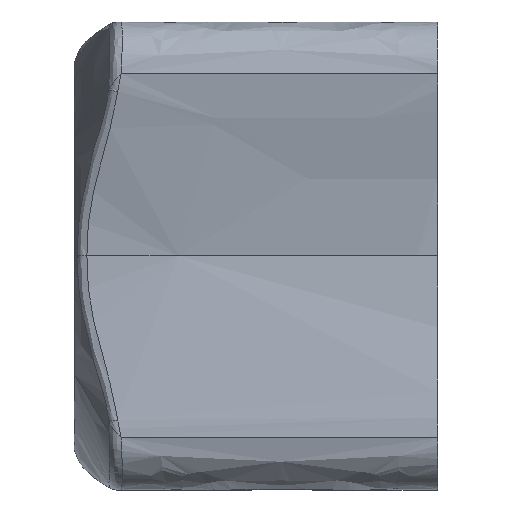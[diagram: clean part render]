
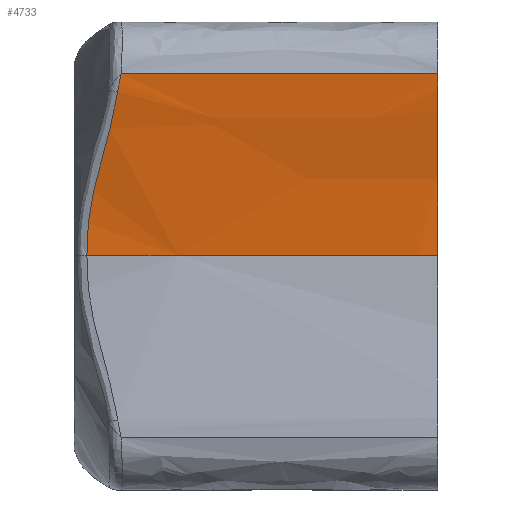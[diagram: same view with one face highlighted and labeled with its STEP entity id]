
A CAD part, top view. The second image highlights one B-rep face of the part: STEP entity #4733.
In plain terms, the highlighted free-form (B-spline) face has degree [5, 1] with [15, 2] control points.
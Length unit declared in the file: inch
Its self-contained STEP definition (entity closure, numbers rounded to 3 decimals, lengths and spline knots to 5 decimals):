
#53=(
BOUNDED_CURVE()
B_SPLINE_CURVE(5,(#12015,#12016,#12017,#12018,#12019,#12020,#12021),
 .UNSPECIFIED.,.F.,.F.)
B_SPLINE_CURVE_WITH_KNOTS((6,1,6),(-0.13649,-0.1,0.),
 .UNSPECIFIED.)
CURVE()
GEOMETRIC_REPRESENTATION_ITEM()
RATIONAL_B_SPLINE_CURVE((1.,1.,1.,1.,1.,1.,1.))
REPRESENTATION_ITEM('')
);
#54=(
BOUNDED_CURVE()
B_SPLINE_CURVE(5,(#12023,#12024,#12025,#12026,#12027,#12028,#12029,#12030,
#12031),.UNSPECIFIED.,.F.,.F.)
B_SPLINE_CURVE_WITH_KNOTS((6,1,1,1,6),(-0.5,-0.4,-0.3,-0.2,-0.13649),
 .UNSPECIFIED.)
CURVE()
GEOMETRIC_REPRESENTATION_ITEM()
RATIONAL_B_SPLINE_CURVE((1.,1.,1.,1.,1.,1.,1.,1.,1.))
REPRESENTATION_ITEM('')
);
#313=B_SPLINE_CURVE_WITH_KNOTS('',3,(#14321,#14322,#14323,#14324,#14325,
#14326),.UNSPECIFIED.,.F.,.F.,(4,2,4),(-0.00001,0.30987,
0.81447),.UNSPECIFIED.);
#314=B_SPLINE_CURVE_WITH_KNOTS('',3,(#14328,#14329,#14330,#14331,#14332,
#14333,#14334,#14335,#14336,#14337,#14338,#14339,#14340,#14341,#14342,#14343,
#14344,#14345,#14346),.UNSPECIFIED.,.F.,.F.,(4,1,1,2,1,1,2,2,1,1,1,2,4),
(0.,0.78283,1.56565,3.13131,3.7171,
4.3029,5.47449,6.09928,6.30468,6.51008,
6.92089,7.7425,8.35573),.UNSPECIFIED.);
#315=B_SPLINE_CURVE_WITH_KNOTS('',3,(#14348,#14349,#14350,#14351),
 .UNSPECIFIED.,.F.,.F.,(4,4),(-17.15622,-12.7),.UNSPECIFIED.);
#316=B_SPLINE_CURVE_WITH_KNOTS('',3,(#14353,#14354,#14355,#14356,#14357,
#14358),.UNSPECIFIED.,.F.,.F.,(4,2,4),(-12.7,-8.7313,-1.016),
 .UNSPECIFIED.);
#317=B_SPLINE_CURVE_WITH_KNOTS('',3,(#14359,#14360,#14361,#14362),
 .UNSPECIFIED.,.F.,.F.,(4,4),(-1.016,0.),.UNSPECIFIED.);
#777=LINE('',#13493,#1007);
#1007=VECTOR('',#5845,0.3937);
#1287=FACE_OUTER_BOUND('',#1585,.T.);
#1585=EDGE_LOOP('',(#4100,#4101,#4102,#4103,#4104,#4105,#4106,#4107));
#2182=VERTEX_POINT('',#11988);
#2183=VERTEX_POINT('',#12014);
#2184=VERTEX_POINT('',#12022);
#2218=VERTEX_POINT('',#13459);
#2236=VERTEX_POINT('',#14320);
#2237=VERTEX_POINT('',#14327);
#2238=VERTEX_POINT('',#14347);
#2239=VERTEX_POINT('',#14352);
#2809=EDGE_CURVE('',#2183,#2182,#53,.T.);
#2810=EDGE_CURVE('',#2184,#2183,#54,.T.);
#2873=EDGE_CURVE('',#2182,#2218,#777,.T.);
#2895=EDGE_CURVE('',#2218,#2236,#313,.T.);
#2896=EDGE_CURVE('',#2236,#2237,#314,.T.);
#2897=EDGE_CURVE('',#2237,#2238,#315,.T.);
#2898=EDGE_CURVE('',#2238,#2239,#316,.T.);
#2899=EDGE_CURVE('',#2239,#2184,#317,.T.);
#4100=ORIENTED_EDGE('',*,*,#2873,.T.);
#4101=ORIENTED_EDGE('',*,*,#2895,.T.);
#4102=ORIENTED_EDGE('',*,*,#2896,.T.);
#4103=ORIENTED_EDGE('',*,*,#2897,.T.);
#4104=ORIENTED_EDGE('',*,*,#2898,.T.);
#4105=ORIENTED_EDGE('',*,*,#2899,.T.);
#4106=ORIENTED_EDGE('',*,*,#2810,.T.);
#4107=ORIENTED_EDGE('',*,*,#2809,.T.);
#4555=(
BOUNDED_SURFACE()
B_SPLINE_SURFACE(5,1,((#14290,#14291),(#14292,#14293),(#14294,#14295),(#14296,
#14297),(#14298,#14299),(#14300,#14301),(#14302,#14303),(#14304,#14305),
(#14306,#14307),(#14308,#14309),(#14310,#14311),(#14312,#14313),(#14314,
#14315),(#14316,#14317),(#14318,#14319)),.UNSPECIFIED.,.F.,.F.,.F.)
B_SPLINE_SURFACE_WITH_KNOTS((6,1,1,1,1,1,1,1,1,1,6),(2,2),(-1.,-0.9,-0.8,
-0.7,-0.6,-0.5,-0.4,-0.3,-0.2,-0.1,0.),(0.,48.26),.UNSPECIFIED.)
GEOMETRIC_REPRESENTATION_ITEM()
RATIONAL_B_SPLINE_SURFACE(((1.,1.),(1.,1.),(1.,1.),(1.,1.),(1.,1.),(1.,
1.),(1.,1.),(1.,1.),(1.,1.),(1.,1.),(1.,1.),(1.,1.),(1.,1.),(1.,1.),(1.,
1.)))
REPRESENTATION_ITEM('')
SURFACE()
);
#4733=ADVANCED_FACE('',(#1287),#4555,.T.);
#5845=DIRECTION('',(-1.,0.,0.));
#11988=CARTESIAN_POINT('',(7.,3.5,4.5));
#12014=CARTESIAN_POINT('',(7.,2.8,4.41294));
#12015=CARTESIAN_POINT('Ctrl Pts',(7.,2.8,4.41294));
#12016=CARTESIAN_POINT('Ctrl Pts',(7.,2.84522,4.42162));
#12017=CARTESIAN_POINT('Ctrl Pts',(7.,3.01087,4.45252));
#12018=CARTESIAN_POINT('Ctrl Pts',(7.,3.16284,4.47698));
#12019=CARTESIAN_POINT('Ctrl Pts',(7.,3.29958,4.49316));
#12020=CARTESIAN_POINT('Ctrl Pts',(7.,3.42023,4.5));
#12021=CARTESIAN_POINT('Ctrl Pts',(7.,3.5,4.5));
#12022=CARTESIAN_POINT('',(7.,0.,4.));
#12023=CARTESIAN_POINT('Ctrl Pts',(7.,0.,4.));
#12024=CARTESIAN_POINT('Ctrl Pts',(7.,0.16228,4.));
#12025=CARTESIAN_POINT('Ctrl Pts',(7.,0.48977,4.01002));
#12026=CARTESIAN_POINT('Ctrl Pts',(7.,0.98697,4.05513));
#12027=CARTESIAN_POINT('Ctrl Pts',(7.,1.58543,4.15546));
#12028=CARTESIAN_POINT('Ctrl Pts',(7.,2.14395,4.27623));
#12029=CARTESIAN_POINT('Ctrl Pts',(7.,2.51122,4.35565));
#12030=CARTESIAN_POINT('Ctrl Pts',(7.,2.72127,4.39783));
#12031=CARTESIAN_POINT('Ctrl Pts',(7.,2.8,4.41294));
#13459=CARTESIAN_POINT('',(0.90336,3.5,4.5));
#13493=CARTESIAN_POINT('',(7.,3.5,4.5));
#14290=CARTESIAN_POINT('Ctrl Pts',(7.,-3.5,4.5));
#14291=CARTESIAN_POINT('Ctrl Pts',(-12.,-3.5,4.5));
#14292=CARTESIAN_POINT('Ctrl Pts',(7.,-3.38086,4.5));
#14293=CARTESIAN_POINT('Ctrl Pts',(-12.,-3.38086,4.5));
#14294=CARTESIAN_POINT('Ctrl Pts',(7.,-3.13917,4.48998));
#14295=CARTESIAN_POINT('Ctrl Pts',(-12.,-3.13917,4.48998));
#14296=CARTESIAN_POINT('Ctrl Pts',(7.,-2.76633,4.44487));
#14297=CARTESIAN_POINT('Ctrl Pts',(-12.,-2.76633,4.44487));
#14298=CARTESIAN_POINT('Ctrl Pts',(7.,-2.24686,4.33447));
#14299=CARTESIAN_POINT('Ctrl Pts',(-12.,-2.24686,4.33447));
#14300=CARTESIAN_POINT('Ctrl Pts',(7.,-1.552,4.16553));
#14301=CARTESIAN_POINT('Ctrl Pts',(-12.,-1.552,4.16553));
#14302=CARTESIAN_POINT('Ctrl Pts',(7.,-0.80523,4.02753));
#14303=CARTESIAN_POINT('Ctrl Pts',(-12.,-0.80523,4.02753));
#14304=CARTESIAN_POINT('Ctrl Pts',(7.,-0.00816,3.97329));
#14305=CARTESIAN_POINT('Ctrl Pts',(-12.,-0.00816,3.97329));
#14306=CARTESIAN_POINT('Ctrl Pts',(7.,0.82234,4.02753));
#14307=CARTESIAN_POINT('Ctrl Pts',(-12.,0.82234,4.02753));
#14308=CARTESIAN_POINT('Ctrl Pts',(7.,1.6455,4.16553));
#14309=CARTESIAN_POINT('Ctrl Pts',(-12.,1.6455,4.16553));
#14310=CARTESIAN_POINT('Ctrl Pts',(7.,2.40821,4.33447));
#14311=CARTESIAN_POINT('Ctrl Pts',(-12.,2.40821,4.33447));
#14312=CARTESIAN_POINT('Ctrl Pts',(7.,2.92641,4.44487));
#14313=CARTESIAN_POINT('Ctrl Pts',(-12.,2.92641,4.44487));
#14314=CARTESIAN_POINT('Ctrl Pts',(7.,3.24343,4.48998));
#14315=CARTESIAN_POINT('Ctrl Pts',(-12.,3.24343,4.48998));
#14316=CARTESIAN_POINT('Ctrl Pts',(7.,3.42023,4.5));
#14317=CARTESIAN_POINT('Ctrl Pts',(-12.,3.42023,4.5));
#14318=CARTESIAN_POINT('Ctrl Pts',(7.,3.5,4.5));
#14319=CARTESIAN_POINT('Ctrl Pts',(-12.,3.5,4.5));
#14320=CARTESIAN_POINT('',(0.84112,3.15725,4.47302));
#14321=CARTESIAN_POINT('Ctrl Pts',(0.90336,3.5,4.5));
#14322=CARTESIAN_POINT('Ctrl Pts',(0.89232,3.45523,4.49999));
#14323=CARTESIAN_POINT('Ctrl Pts',(0.88244,3.41142,4.49815));
#14324=CARTESIAN_POINT('Ctrl Pts',(0.86109,3.29639,4.49028));
#14325=CARTESIAN_POINT('Ctrl Pts',(0.84982,3.22646,4.4824));
#14326=CARTESIAN_POINT('Ctrl Pts',(0.84112,3.15725,4.47302));
#14327=CARTESIAN_POINT('',(0.24558,0.,4.));
#14328=CARTESIAN_POINT('Ctrl Pts',(0.84112,3.15725,4.47302));
#14329=CARTESIAN_POINT('Ctrl Pts',(0.82779,3.05137,4.45864));
#14330=CARTESIAN_POINT('Ctrl Pts',(0.79338,2.8455,4.42312));
#14331=CARTESIAN_POINT('Ctrl Pts',(0.6972,2.449,4.34265));
#14332=CARTESIAN_POINT('Ctrl Pts',(0.60043,2.16344,4.28034));
#14333=CARTESIAN_POINT('Ctrl Pts',(0.52583,1.89834,4.22572));
#14334=CARTESIAN_POINT('Ctrl Pts',(0.48773,1.75341,4.19642));
#14335=CARTESIAN_POINT('Ctrl Pts',(0.41897,1.46208,4.14108));
#14336=CARTESIAN_POINT('Ctrl Pts',(0.37271,1.24263,4.10465));
#14337=CARTESIAN_POINT('Ctrl Pts',(0.32942,1.01757,4.0724));
#14338=CARTESIAN_POINT('Ctrl Pts',(0.31517,0.93916,4.0621));
#14339=CARTESIAN_POINT('Ctrl Pts',(0.29947,0.83445,
4.0498));
#14340=CARTESIAN_POINT('Ctrl Pts',(0.29208,0.78257,
4.04393));
#14341=CARTESIAN_POINT('Ctrl Pts',(0.2789,0.67856,
4.03315));
#14342=CARTESIAN_POINT('Ctrl Pts',(0.26016,0.49607,
4.01689));
#14343=CARTESIAN_POINT('Ctrl Pts',(0.25132,0.33911,
4.00779));
#14344=CARTESIAN_POINT('Ctrl Pts',(0.24665,0.15628,
4.0014));
#14345=CARTESIAN_POINT('Ctrl Pts',(0.24559,0.07812,
4.));
#14346=CARTESIAN_POINT('Ctrl Pts',(0.24558,0.,
4.));
#14347=CARTESIAN_POINT('',(2.,0.,4.));
#14348=CARTESIAN_POINT('Ctrl Pts',(0.24558,0.,
4.));
#14349=CARTESIAN_POINT('Ctrl Pts',(0.83039,0.,
4.));
#14350=CARTESIAN_POINT('Ctrl Pts',(1.41519,0.,
4.));
#14351=CARTESIAN_POINT('Ctrl Pts',(2.,0.,4.));
#14352=CARTESIAN_POINT('',(6.6,0.,4.));
#14353=CARTESIAN_POINT('Ctrl Pts',(2.,0.,4.));
#14354=CARTESIAN_POINT('Ctrl Pts',(2.52083,0.,
4.));
#14355=CARTESIAN_POINT('Ctrl Pts',(3.04165,0.,
4.));
#14356=CARTESIAN_POINT('Ctrl Pts',(4.57499,0.,
4.));
#14357=CARTESIAN_POINT('Ctrl Pts',(5.58749,0.,
4.));
#14358=CARTESIAN_POINT('Ctrl Pts',(6.6,0.,4.));
#14359=CARTESIAN_POINT('Ctrl Pts',(6.6,0.,4.));
#14360=CARTESIAN_POINT('Ctrl Pts',(6.73333,0.,
4.));
#14361=CARTESIAN_POINT('Ctrl Pts',(6.86667,0.,
4.));
#14362=CARTESIAN_POINT('Ctrl Pts',(7.,0.,4.));
